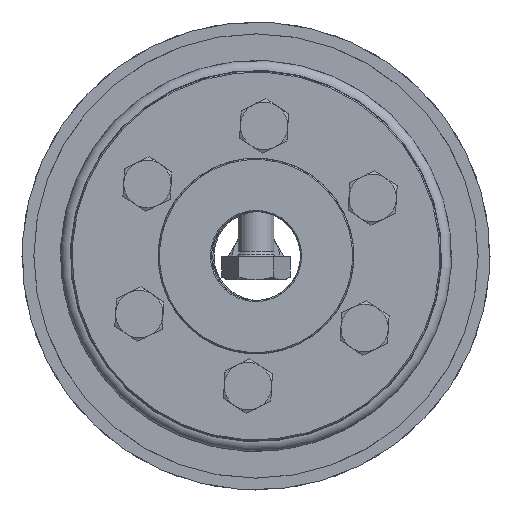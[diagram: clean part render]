
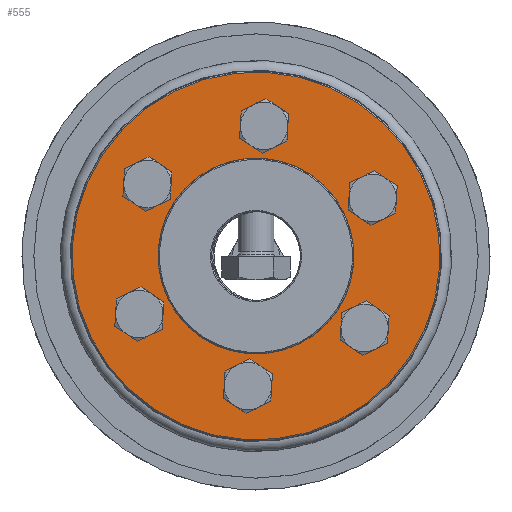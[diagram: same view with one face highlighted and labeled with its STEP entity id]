
A CAD part, left-side view. The second image highlights one B-rep face of the part: STEP entity #555.
In plain terms, the highlighted planar face has unit normal (-1, 0, 0).
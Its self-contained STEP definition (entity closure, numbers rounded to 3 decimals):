
#555 = ADVANCED_FACE( 'NONE', ( #941, #942, #943, #944, #945, #946, #947, #948 ), #949, .F. );
#941 = FACE_OUTER_BOUND( '', #1614, .T. );
#942 = FACE_BOUND( '', #1615, .T. );
#943 = FACE_BOUND( '', #1616, .T. );
#944 = FACE_BOUND( '', #1617, .T. );
#945 = FACE_BOUND( '', #1618, .T. );
#946 = FACE_BOUND( '', #1619, .T. );
#947 = FACE_BOUND( '', #1620, .T. );
#948 = FACE_BOUND( '', #1621, .T. );
#949 = PLANE( '', #1622 );
#1614 = EDGE_LOOP( '', ( #2327 ) );
#1615 = EDGE_LOOP( '', ( #2328 ) );
#1616 = EDGE_LOOP( '', ( #2329 ) );
#1617 = EDGE_LOOP( '', ( #2330 ) );
#1618 = EDGE_LOOP( '', ( #2331 ) );
#1619 = EDGE_LOOP( '', ( #2332 ) );
#1620 = EDGE_LOOP( '', ( #2333 ) );
#1621 = EDGE_LOOP( '', ( #2334 ) );
#1622 = AXIS2_PLACEMENT_3D( '', #2335, #2336, #2337 );
#2327 = ORIENTED_EDGE( '', *, *, #3596, .T. );
#2328 = ORIENTED_EDGE( '', *, *, #3585, .T. );
#2329 = ORIENTED_EDGE( '', *, *, #3597, .T. );
#2330 = ORIENTED_EDGE( '', *, *, #3598, .T. );
#2331 = ORIENTED_EDGE( '', *, *, #3594, .T. );
#2332 = ORIENTED_EDGE( '', *, *, #3599, .T. );
#2333 = ORIENTED_EDGE( '', *, *, #3600, .T. );
#2334 = ORIENTED_EDGE( '', *, *, #3595, .F. );
#2335 = CARTESIAN_POINT( '', ( 0., 16.5, 0. ) );
#2336 = DIRECTION( '', ( 1., 0., 0. ) );
#2337 = DIRECTION( '', ( 0., 1., 0. ) );
#3585 = EDGE_CURVE( 'NONE', #3921, #3921, #3922, .T. );
#3594 = EDGE_CURVE( 'NONE', #3939, #3939, #3940, .T. );
#3595 = EDGE_CURVE( 'NONE', #3941, #3941, #3942, .T. );
#3596 = EDGE_CURVE( 'NONE', #3943, #3943, #3944, .T. );
#3597 = EDGE_CURVE( 'NONE', #3945, #3945, #3946, .T. );
#3598 = EDGE_CURVE( 'NONE', #3947, #3947, #3948, .T. );
#3599 = EDGE_CURVE( 'NONE', #3949, #3949, #3950, .T. );
#3600 = EDGE_CURVE( 'NONE', #3951, #3951, #3952, .T. );
#3921 = VERTEX_POINT( '', #4445 );
#3922 = CIRCLE( '', #4446, 2.75 );
#3939 = VERTEX_POINT( '', #4463 );
#3940 = CIRCLE( '', #4464, 2.75 );
#3941 = VERTEX_POINT( '', #4465 );
#3942 = CIRCLE( '', #4466, 16.5 );
#3943 = VERTEX_POINT( '', #4467 );
#3944 = CIRCLE( '', #4468, 31.05 );
#3945 = VERTEX_POINT( '', #4469 );
#3946 = CIRCLE( '', #4470, 2.75 );
#3947 = VERTEX_POINT( '', #4471 );
#3948 = CIRCLE( '', #4472, 2.75 );
#3949 = VERTEX_POINT( '', #4473 );
#3950 = CIRCLE( '', #4474, 2.75 );
#3951 = VERTEX_POINT( '', #4475 );
#3952 = CIRCLE( '', #4476, 2.75 );
#4445 = CARTESIAN_POINT( '', ( 0., 11., 16.303 ) );
#4446 = AXIS2_PLACEMENT_3D( '', #5397, #5398, #5399 );
#4463 = CARTESIAN_POINT( '', ( 0., -11., -21.803 ) );
#4464 = AXIS2_PLACEMENT_3D( '', #5424, #5425, #5426 );
#4465 = CARTESIAN_POINT( '', ( 0., 0., 16.5 ) );
#4466 = AXIS2_PLACEMENT_3D( '', #5427, #5428, #5429 );
#4467 = CARTESIAN_POINT( '', ( 0., 0., -31.05 ) );
#4468 = AXIS2_PLACEMENT_3D( '', #5430, #5431, #5432 );
#4469 = CARTESIAN_POINT( '', ( 0., -11., 16.303 ) );
#4470 = AXIS2_PLACEMENT_3D( '', #5433, #5434, #5435 );
#4471 = CARTESIAN_POINT( '', ( 0., -22., -2.75 ) );
#4472 = AXIS2_PLACEMENT_3D( '', #5436, #5437, #5438 );
#4473 = CARTESIAN_POINT( '', ( 0., 11., -21.803 ) );
#4474 = AXIS2_PLACEMENT_3D( '', #5439, #5440, #5441 );
#4475 = CARTESIAN_POINT( '', ( 0., 22., -2.75 ) );
#4476 = AXIS2_PLACEMENT_3D( '', #5442, #5443, #5444 );
#5397 = CARTESIAN_POINT( '', ( 0., 11., 19.053 ) );
#5398 = DIRECTION( '', ( 1., 0., 0. ) );
#5399 = DIRECTION( '', ( 0., 0., -1. ) );
#5424 = CARTESIAN_POINT( '', ( 0., -11., -19.053 ) );
#5425 = DIRECTION( '', ( 1., 0., 0. ) );
#5426 = DIRECTION( '', ( 0., 0., -1. ) );
#5427 = CARTESIAN_POINT( '', ( 0., 0., 0. ) );
#5428 = DIRECTION( '', ( -1., 0., 0. ) );
#5429 = DIRECTION( '', ( 0., 0., 1. ) );
#5430 = CARTESIAN_POINT( '', ( 0., 0., 0. ) );
#5431 = DIRECTION( '', ( -1., 0., 0. ) );
#5432 = DIRECTION( '', ( 0., 0., -1. ) );
#5433 = CARTESIAN_POINT( '', ( 0., -11., 19.053 ) );
#5434 = DIRECTION( '', ( 1., 0., 0. ) );
#5435 = DIRECTION( '', ( 0., 0., -1. ) );
#5436 = CARTESIAN_POINT( '', ( 0., -22., 0. ) );
#5437 = DIRECTION( '', ( 1., 0., 0. ) );
#5438 = DIRECTION( '', ( 0., 0., -1. ) );
#5439 = CARTESIAN_POINT( '', ( 0., 11., -19.053 ) );
#5440 = DIRECTION( '', ( 1., 0., 0. ) );
#5441 = DIRECTION( '', ( 0., 0., -1. ) );
#5442 = CARTESIAN_POINT( '', ( 0., 22., 0. ) );
#5443 = DIRECTION( '', ( 1., 0., 0. ) );
#5444 = DIRECTION( '', ( 0., 0., -1. ) );
